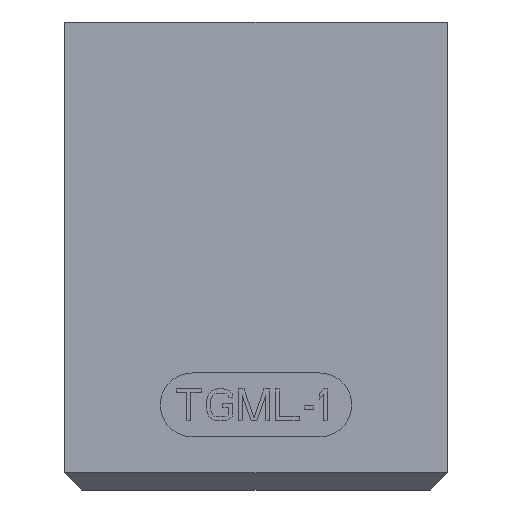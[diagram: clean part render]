
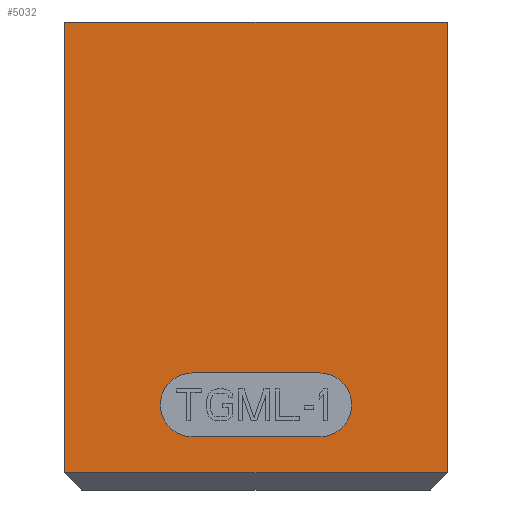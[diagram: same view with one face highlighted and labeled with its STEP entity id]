
A CAD part, front view. The second image highlights one B-rep face of the part: STEP entity #5032.
In plain terms, the highlighted planar face has unit normal (0, -1, 0).
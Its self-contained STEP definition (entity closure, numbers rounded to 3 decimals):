
#607=DIRECTION('',(1.,0.,0.));
#608=VECTOR('',#607,18.);
#609=CARTESIAN_POINT('',(-2.3,-4.,5.5));
#610=LINE('',#609,#608);
#672=DIRECTION('',(0.,0.,1.));
#673=VECTOR('',#672,21.2);
#674=CARTESIAN_POINT('',(15.7,-4.,-15.7));
#675=LINE('',#674,#673);
#803=DIRECTION('',(-1.,0.,0.));
#804=VECTOR('',#803,18.);
#805=CARTESIAN_POINT('',(15.7,-4.,-15.7));
#806=LINE('',#805,#804);
#810=DIRECTION('',(0.,0.,1.));
#811=VECTOR('',#810,21.2);
#812=CARTESIAN_POINT('',(-2.3,-4.,-15.7));
#813=LINE('',#812,#811);
#817=CARTESIAN_POINT('',(3.7,-4.,-12.5));
#818=DIRECTION('',(0.,-1.,0.));
#819=DIRECTION('',(0.,0.,1.));
#820=AXIS2_PLACEMENT_3D('',#817,#818,#819);
#825=DIRECTION('',(1.,0.,0.));
#826=VECTOR('',#825,6.);
#827=CARTESIAN_POINT('',(3.7,-4.,-14.));
#828=LINE('',#827,#826);
#832=CARTESIAN_POINT('',(9.7,-4.,-12.5));
#833=DIRECTION('',(0.,-1.,0.));
#834=DIRECTION('',(0.,0.,-1.));
#835=AXIS2_PLACEMENT_3D('',#832,#833,#834);
#840=DIRECTION('',(-1.,0.,0.));
#841=VECTOR('',#840,6.);
#842=CARTESIAN_POINT('',(9.7,-4.,-11.));
#843=LINE('',#842,#841);
#3294=CARTESIAN_POINT('',(-2.3,-4.,5.5));
#3296=VERTEX_POINT('',#3294);
#3297=CARTESIAN_POINT('',(15.7,-4.,5.5));
#3298=VERTEX_POINT('',#3297);
#3331=CARTESIAN_POINT('',(-2.3,-4.,-15.7));
#3332=VERTEX_POINT('',#3331);
#3337=CARTESIAN_POINT('',(15.7,-4.,-15.7));
#3338=VERTEX_POINT('',#3337);
#3369=CARTESIAN_POINT('',(3.7,-4.,-11.));
#3370=CARTESIAN_POINT('',(3.7,-4.,-14.));
#3371=VERTEX_POINT('',#3369);
#3372=VERTEX_POINT('',#3370);
#3373=CARTESIAN_POINT('',(9.7,-4.,-14.));
#3374=VERTEX_POINT('',#3373);
#3375=CARTESIAN_POINT('',(9.7,-4.,-11.));
#3376=VERTEX_POINT('',#3375);
#5011=CARTESIAN_POINT('',(-2.3,-4.,-16.5));
#5012=DIRECTION('',(0.,-1.,0.));
#5013=DIRECTION('',(1.,0.,0.));
#5014=AXIS2_PLACEMENT_3D('',#5011,#5012,#5013);
#5015=PLANE('',#5014);
#5016=ORIENTED_EDGE('',*,*,#5005,.T.);
#5017=ORIENTED_EDGE('',*,*,#4980,.T.);
#5018=ORIENTED_EDGE('',*,*,#4870,.T.);
#5019=ORIENTED_EDGE('',*,*,#4892,.F.);
#5020=EDGE_LOOP('',(#5016,#5017,#5018,#5019));
#5021=FACE_OUTER_BOUND('',#5020,.F.);
#5023=ORIENTED_EDGE('',*,*,#5022,.T.);
#5025=ORIENTED_EDGE('',*,*,#5024,.T.);
#5027=ORIENTED_EDGE('',*,*,#5026,.T.);
#5029=ORIENTED_EDGE('',*,*,#5028,.T.);
#5030=EDGE_LOOP('',(#5023,#5025,#5027,#5029));
#5031=FACE_BOUND('',#5030,.F.);
#821=CIRCLE('',#820,1.5);
#836=CIRCLE('',#835,1.5);
#4870=EDGE_CURVE('',#3296,#3298,#610,.T.);
#4892=EDGE_CURVE('',#3338,#3298,#675,.T.);
#4980=EDGE_CURVE('',#3332,#3296,#813,.T.);
#5005=EDGE_CURVE('',#3338,#3332,#806,.T.);
#5022=EDGE_CURVE('',#3371,#3372,#821,.T.);
#5024=EDGE_CURVE('',#3372,#3374,#828,.T.);
#5026=EDGE_CURVE('',#3374,#3376,#836,.T.);
#5028=EDGE_CURVE('',#3376,#3371,#843,.T.);
#5032=ADVANCED_FACE('',(#5021,#5031),#5015,.T.);
